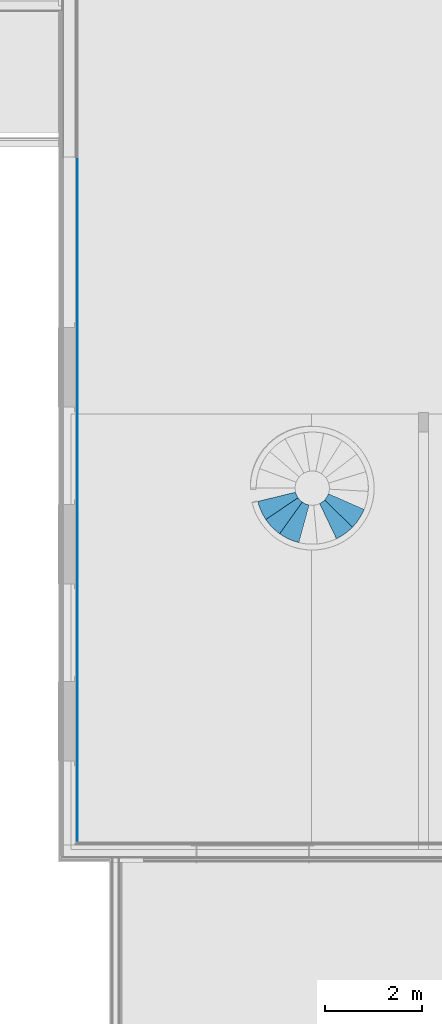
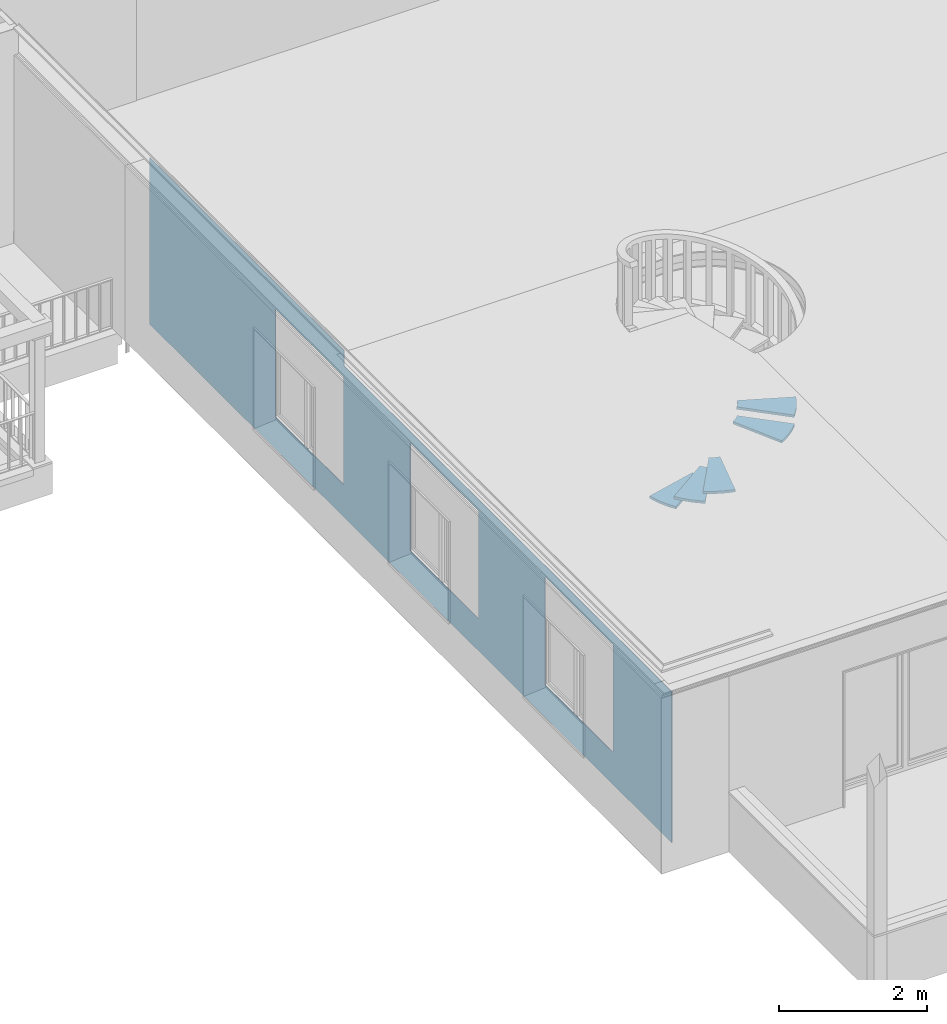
# One storey, part 4 of 36: 6 building element parts, 3 openings, 2 elements without a shape of their own.
"""IFC4 building model written with IfcOpenShell, lengths in millimetres."""

from ifc_helpers import new_model, entity, si_unit, converted_unit, derived_unit, direction, frame, origin_with_axes, place, context, subcontext, project, spatial, polygons, material, type_object, element, aggregate, save


model = new_model("IFC4")

# Units and contexts
model_context = context("Model", 3, precision=0.01, world=origin_with_axes(), true_north=direction((0.0, 1.0)))
body_context = subcontext(model_context, "Body", "Model", "MODEL_VIEW")
ifc_project = project(units=[si_unit("LENGTHUNIT", "METRE", prefix="MILLI"), si_unit("AREAUNIT", "SQUARE_METRE"), si_unit("VOLUMEUNIT", "CUBIC_METRE"), converted_unit("PLANEANGLEUNIT", "DEGREE", entity("IfcPlaneAngleMeasure", 0.0174532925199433), si_unit("PLANEANGLEUNIT", "RADIAN"), dimensions=[0, 0, 0, 0, 0, 0, 0]), converted_unit("TIMEUNIT", "Year", entity("IfcTimeMeasure", 31557600.0), si_unit("TIMEUNIT", "SECOND"), dimensions=[0, 0, 1, 0, 0, 0, 0]), si_unit("MASSUNIT", "GRAM", prefix="KILO"), si_unit("THERMODYNAMICTEMPERATUREUNIT", "DEGREE_CELSIUS"), si_unit("LUMINOUSINTENSITYUNIT", "LUMEN"), si_unit("ENERGYUNIT", "JOULE", prefix="MEGA"), derived_unit("THERMALCONDUCTANCEUNIT", [(si_unit("POWERUNIT", "WATT"), 1), (si_unit("LENGTHUNIT", "METRE"), -1), (si_unit("THERMODYNAMICTEMPERATUREUNIT", "KELVIN"), -1)]), derived_unit("SPECIFICHEATCAPACITYUNIT", [(si_unit("ENERGYUNIT", "JOULE"), 1), (si_unit("MASSUNIT", "GRAM", prefix="KILO"), -1), (si_unit("THERMODYNAMICTEMPERATUREUNIT", "KELVIN"), -1)]), derived_unit("MASSDENSITYUNIT", [(si_unit("MASSUNIT", "GRAM", prefix="KILO"), 1), (si_unit("VOLUMEUNIT", "CUBIC_METRE"), -1)])], contexts=[model_context])

# Site, building, storey
site_placement = place(None, origin_with_axes())
site = spatial("IfcSite", under=ifc_project, at=site_placement, Name="Gelände", CompositionType="ELEMENT")
building_placement = place(site_placement, origin_with_axes())
building = spatial("IfcBuilding", under=site, at=building_placement, Name="Gebäude", CompositionType="ELEMENT")
storey_placement = place(building_placement, frame((0.0, 0.0, 8700.0), z_axis=(0.0, 0.0, 1.0), x_axis=(1.0, 0.0, 0.0)))
storey = spatial("IfcBuildingStorey", under=building, at=storey_placement, Name="Attika", CompositionType="ELEMENT", Elevation=8700.0)

# Stair, building element parts
stair_type = type_object("IfcStairType", Name="Treppentyp", PredefinedType="NOTDEFINED")
stair_placement = place(storey_placement, frame((22020.85993748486, 15863.01699226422, 650.0000000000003), z_axis=(0.0, 0.0, 1.0), x_axis=(0.8601646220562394, -0.5100164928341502, 0.0)))
stair = element("IfcStair", 1, at=stair_placement, inside=storey, type_object=stair_type, Name="Treppe-001", PredefinedType="NOTDEFINED")
ifc_material_1 = material(Name="Vollholzwerkstoff")
building_element_part_1_placement = place(stair_placement, origin_with_axes())
building_element_part_1 = element("IfcBuildingElementPart", 2, at=building_element_part_1_placement, material=ifc_material_1, Name="Vollholzwerkstoff", PredefinedType="NOTDEFINED", context=body_context, shape_type="Tessellation", body=[
    polygons([(571.9144105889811, 559.3870815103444, 121.7646997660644), (0.0, 0.0, 121.7646997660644), (0.0, 0.0, 161.7646997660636), (571.9144105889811, 559.3870815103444, 161.7646997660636), (610.7940585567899, 525.0764473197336, 121.7646997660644), (654.2753023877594, 496.8235168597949, 121.7646997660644), (701.4223209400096, 475.2363612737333, 121.7646997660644), (359.6142282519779, -249.0456251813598, 121.7646997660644), (280.4951340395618, -210.5256784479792, 121.7646997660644), (204.5428513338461, -166.0861901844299, 121.7646997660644), (132.1994402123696, -115.9858086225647, 121.7646997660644), (63.88595627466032, -60.51612971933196, 121.7646997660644), (63.88595627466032, -60.51612971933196, 161.7646997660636), (132.1994402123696, -115.9858086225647, 161.7646997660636), (204.5428513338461, -166.0861901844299, 161.7646997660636), (280.4951340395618, -210.5256784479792, 161.7646997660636), (359.6142282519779, -249.0456251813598, 161.7646997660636), (701.4223209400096, 475.2363612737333, 161.7646997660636), (654.2753023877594, 496.8235168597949, 161.7646997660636), (610.7940585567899, 525.0764473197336, 161.7646997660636)], [[[1, 2, 3, 4]], [[1, 5, 6, 7, 8, 9, 10, 11, 12, 2]], [[2, 12, 13, 3]], [[4, 3, 13, 14, 15, 16, 17, 18, 19, 20]], [[5, 1, 4, 20]], [[6, 5, 20, 19]], [[7, 6, 19, 18]], [[8, 7, 18, 17]], [[9, 8, 17, 16]], [[10, 9, 16, 15]], [[11, 10, 15, 14]], [[12, 11, 14, 13]]], closed=True),
])
building_element_part_2_placement = place(stair_placement, origin_with_axes())
building_element_part_2 = element("IfcBuildingElementPart", 3, at=building_element_part_2_placement, material=ifc_material_1, Name="Vollholzwerkstoff", PredefinedType="NOTDEFINED", context=body_context, shape_type="Tessellation", body=[
    polygons([(673.7474264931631, 486.8865526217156, 283.5293995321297), (332.3171436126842, -236.5948651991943, 283.5293995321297), (332.3171436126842, -236.5948651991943, 323.5293995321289), (673.7474264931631, 486.8865526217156, 323.5293995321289), (722.1387784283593, 468.2552965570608, 283.5293995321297), (772.7353195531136, 456.9046723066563, 283.5293995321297), (824.4480903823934, 453.078972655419, 283.5293995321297), (756.131821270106, -344.8872268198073, 283.5293995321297), (668.5523360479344, -336.3168631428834, 283.5293995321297), (581.8810785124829, -321.0948237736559, 283.5293995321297), (496.6224956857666, -299.3097045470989, 283.5293995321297), (413.2728124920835, -271.088299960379, 283.5293995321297), (413.2728124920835, -271.088299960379, 323.5293995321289), (496.6224956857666, -299.3097045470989, 323.5293995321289), (581.8810785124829, -321.0948237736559, 323.5293995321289), (668.5523360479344, -336.3168631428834, 323.5293995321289), (756.131821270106, -344.8872268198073, 323.5293995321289), (824.4480903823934, 453.078972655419, 323.5293995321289), (772.7353195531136, 456.9046723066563, 323.5293995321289), (722.1387784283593, 468.2552965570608, 323.5293995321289)], [[[1, 2, 3, 4]], [[1, 5, 6, 7, 8, 9, 10, 11, 12, 2]], [[2, 12, 13, 3]], [[4, 3, 13, 14, 15, 16, 17, 18, 19, 20]], [[5, 1, 4, 20]], [[6, 5, 20, 19]], [[7, 6, 19, 18]], [[8, 7, 18, 17]], [[9, 8, 17, 16]], [[10, 9, 16, 15]], [[11, 10, 15, 14]], [[12, 11, 14, 13]]], closed=True),
])
building_element_part_3_placement = place(stair_placement, origin_with_axes())
building_element_part_3 = element("IfcBuildingElementPart", 4, at=building_element_part_3_placement, material=ifc_material_1, Name="Vollholzwerkstoff", PredefinedType="NOTDEFINED", context=body_context, shape_type="Tessellation", body=[
    polygons([(794.4486373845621, 454.3672121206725, 445.2940992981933), (726.2078801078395, -342.7169735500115, 445.2940992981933), (726.2078801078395, -342.7169735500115, 485.2940992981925), (794.4486373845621, 454.3672121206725, 485.2940992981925), (846.2990024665, 453.7456933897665, 445.2940992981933), (897.6823295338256, 460.7170880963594, 445.2940992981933), (947.4927255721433, 475.1313550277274, 445.2940992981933), (1161.213138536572, -296.7110856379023, 445.2940992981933), (1076.12752427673, -319.1622684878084, 445.2940992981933), (989.5779546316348, -335.0616194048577, 445.2940992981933), (902.0681683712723, -344.3166004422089, 445.2940992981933), (814.1074929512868, -346.873345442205, 445.2940992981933), (814.1074929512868, -346.873345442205, 485.2940992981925), (902.0681683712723, -344.3166004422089, 485.2940992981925), (989.5779546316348, -335.0616194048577, 485.2940992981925), (1076.12752427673, -319.1622684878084, 485.2940992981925), (1161.213138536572, -296.7110856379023, 485.2940992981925), (947.4927255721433, 475.1313550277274, 485.2940992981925), (897.6823295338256, 460.7170880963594, 485.2940992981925), (846.2990024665, 453.7456933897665, 485.2940992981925)], [[[1, 2, 3, 4]], [[1, 5, 6, 7, 8, 9, 10, 11, 12, 2]], [[2, 12, 13, 3]], [[4, 3, 13, 14, 15, 16, 17, 18, 19, 20]], [[5, 1, 4, 20]], [[6, 5, 20, 19]], [[7, 6, 19, 18]], [[8, 7, 18, 17]], [[9, 8, 17, 16]], [[10, 9, 16, 15]], [[11, 10, 15, 14]], [[12, 11, 14, 13]]], closed=True),
])
building_element_part_4_placement = place(stair_placement, origin_with_axes())
building_element_part_4 = element("IfcBuildingElementPart", 5, at=building_element_part_4_placement, material=ifc_material_1, Name="Vollholzwerkstoff", PredefinedType="NOTDEFINED", context=body_context, shape_type="Tessellation", body=[
    polygons([(1118.379723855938, 610.0036464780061, 930.5881985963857), (1783.309571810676, 165.1797517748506, 930.5881985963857), (1783.309571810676, 165.1797517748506, 970.5881985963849), (1118.379723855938, 610.0036464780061, 970.5881985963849), (1143.973038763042, 655.1016384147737, 930.5881985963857), (1162.692653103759, 703.4588786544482, 930.5881985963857), (1174.13567566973, 754.0346028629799, 930.5881985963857), (1953.181455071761, 568.2798136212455, 930.5881985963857), (1931.733646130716, 482.9357519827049, 930.5881985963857), (1903.842053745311, 399.4751239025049, 930.5881985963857), (1869.669013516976, 318.3836897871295, 930.5881985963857), (1829.413420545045, 240.1334207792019, 930.5881985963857), (1829.413420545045, 240.1334207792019, 970.5881985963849), (1869.669013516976, 318.3836897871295, 970.5881985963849), (1903.842053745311, 399.4751239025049, 970.5881985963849), (1931.733646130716, 482.9357519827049, 970.5881985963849), (1953.181455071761, 568.2798136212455, 970.5881985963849), (1174.13567566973, 754.0346028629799, 970.5881985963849), (1162.692653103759, 703.4588786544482, 970.5881985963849), (1143.973038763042, 655.1016384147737, 970.5881985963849)], [[[1, 2, 3, 4]], [[1, 5, 6, 7, 8, 9, 10, 11, 12, 2]], [[2, 12, 13, 3]], [[4, 3, 13, 14, 15, 16, 17, 18, 19, 20]], [[5, 1, 4, 20]], [[6, 5, 20, 19]], [[7, 6, 19, 18]], [[8, 7, 18, 17]], [[9, 8, 17, 16]], [[10, 9, 16, 15]], [[11, 10, 15, 14]], [[12, 11, 14, 13]]], closed=True),
])
building_element_part_5_placement = place(stair_placement, origin_with_axes())
building_element_part_5 = element("IfcBuildingElementPart", 6, at=building_element_part_5_placement, material=ifc_material_1, Name="Vollholzwerkstoff", PredefinedType="NOTDEFINED", context=body_context, shape_type="Tessellation", body=[
    polygons([(1168.418228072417, 724.556856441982, 1092.352898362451), (1946.602906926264, 539.0073870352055, 1092.352898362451), (1946.602906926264, 539.0073870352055, 1132.35289836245), (1168.418228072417, 724.556856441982, 1132.35289836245), (1176.712792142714, 775.7432496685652, 1092.352898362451), (1177.429017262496, 827.5923930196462, 1092.352898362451), (1170.551488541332, 878.9883679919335, 1092.352898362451), (1965.53597643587, 976.0287314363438, 1092.352898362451), (1975.136927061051, 888.556226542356, 1092.352898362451), (1978.041476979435, 800.6063490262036, 1092.352898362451), (1974.232721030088, 712.6909877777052, 1092.352898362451), (1963.732827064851, 625.3218307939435, 1092.352898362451), (1963.732827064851, 625.3218307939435, 1132.35289836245), (1974.232721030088, 712.6909877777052, 1132.35289836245), (1978.041476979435, 800.6063490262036, 1132.35289836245), (1975.136927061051, 888.556226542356, 1132.35289836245), (1965.53597643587, 976.0287314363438, 1132.35289836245), (1170.551488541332, 878.9883679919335, 1132.35289836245), (1177.429017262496, 827.5923930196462, 1132.35289836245), (1176.712792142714, 775.7432496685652, 1132.35289836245)], [[[1, 2, 3, 4]], [[1, 5, 6, 7, 8, 9, 10, 11, 12, 2]], [[2, 12, 13, 3]], [[4, 3, 13, 14, 15, 16, 17, 18, 19, 20]], [[5, 1, 4, 20]], [[6, 5, 20, 19]], [[7, 6, 19, 18]], [[8, 7, 18, 17]], [[9, 8, 17, 16]], [[10, 9, 16, 15]], [[11, 10, 15, 14]], [[12, 11, 14, 13]]], closed=True),
])
aggregate(stair, [building_element_part_1, building_element_part_2, building_element_part_3, building_element_part_4, building_element_part_5])

# Wall, openings, building element part
wall_type = type_object("IfcWallType", Name="Aussenwand Typ 01 318", PredefinedType="NOTDEFINED")
wall_placement = place(storey_placement, frame((17999.99744477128, 22947.48446271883, 500.0), z_axis=(0.0, 0.0, 1.0), x_axis=(0.0, -1.0, 0.0)))
wall = element("IfcWall", 7, at=wall_placement, inside=storey, type_object=wall_type, Name="Wand-014", PredefinedType="NOTDEFINED")
opening_1_placement = place(wall_placement, frame((11607.88718140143, 0.0, 740.0000000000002), z_axis=(0.0, 0.0, 1.0), x_axis=(1.0, 0.0, 0.0)))
element("IfcOpeningElement", 8, at=opening_1_placement, cuts=wall, Name="Fenster-004", context=body_context, identifier="Reference", shape_type="Tessellation", body=[
    polygons([(820.9999999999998, 249.9999999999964, 1621.0), (-820.9999999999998, 249.9999999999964, 1621.0), (-820.9999999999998, -1.000000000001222, 1621.0), (820.9999999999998, -1.000000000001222, 1621.0), (-800.0000000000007, 0.0, 1621.0), (-800.0000000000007, 149.9999999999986, 1621.0), (799.999999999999, 149.9999999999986, 1621.0), (799.999999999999, 0.0, 1621.0), (-820.9999999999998, 249.9999999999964, -60.0000000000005), (820.9999999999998, 249.9999999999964, -60.0000000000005), (920.9999999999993, 249.9999999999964, -60.0000000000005), (920.9999999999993, 249.9999999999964, 1721.0), (-920.9999999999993, 249.9999999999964, 1721.0), (-920.9999999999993, 249.9999999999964, -60.0000000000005), (-820.9999999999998, -1.000000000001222, -60.0000000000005), (820.9999999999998, -1.000000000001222, -60.0000000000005), (-800.0000000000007, 0.0, 1890.0), (-800.0000000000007, 149.9999999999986, 1890.0), (799.999999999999, 149.9999999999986, 1890.0), (799.999999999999, 0.0, 1890.0), (-920.9999999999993, 319.0000000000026, -60.0000000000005), (920.9999999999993, 319.0000000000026, -60.0000000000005), (920.9999999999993, 319.0000000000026, 1721.0), (-920.9999999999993, 319.0000000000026, 1721.0)], [[[1, 2, 3, 4], [5, 6, 7, 8]], [[9, 2, 1, 10, 11, 12, 13, 14]], [[2, 9, 15, 3]], [[3, 15, 16, 4]], [[10, 1, 4, 16]], [[6, 5, 17, 18]], [[7, 6, 18, 19]], [[8, 7, 19, 20]], [[5, 8, 20, 17]], [[10, 9, 14, 21, 22, 11]], [[12, 11, 22, 23]], [[13, 12, 23, 24]], [[14, 13, 24, 21]], [[9, 10, 16, 15]], [[20, 19, 18, 17]], [[23, 22, 21, 24]]], closed=True),
])
opening_2_placement = place(wall_placement, frame((7965.887181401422, 0.0, 740.0000000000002), z_axis=(0.0, 0.0, 1.0), x_axis=(1.0, 0.0, 0.0)))
element("IfcOpeningElement", 9, at=opening_2_placement, cuts=wall, context=body_context, identifier="Reference", shape_type="Tessellation", body=[
    polygons([(820.9999999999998, 250.0, 1621.0), (-820.9999999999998, 250.0, 1621.0), (-820.9999999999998, -1.000000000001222, 1621.0), (820.9999999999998, -1.000000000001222, 1621.0), (-800.0000000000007, 0.0, 1621.0), (-800.0000000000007, 150.0000000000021, 1621.0), (799.999999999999, 150.0000000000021, 1621.0), (799.999999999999, 0.0, 1621.0), (-820.9999999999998, 250.0, -60.0000000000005), (820.9999999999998, 250.0, -60.0000000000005), (920.9999999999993, 250.0, -60.0000000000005), (920.9999999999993, 250.0, 1721.0), (-920.9999999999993, 250.0, 1721.0), (-920.9999999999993, 250.0, -60.0000000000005), (-820.9999999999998, -1.000000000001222, -60.0000000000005), (820.9999999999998, -1.000000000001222, -60.0000000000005), (-800.0000000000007, 0.0, 1890.0), (-800.0000000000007, 150.0000000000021, 1890.0), (799.999999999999, 150.0000000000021, 1890.0), (799.999999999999, 0.0, 1890.0), (-920.9999999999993, 319.0000000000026, -60.0000000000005), (920.9999999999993, 319.0000000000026, -60.0000000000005), (920.9999999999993, 319.0000000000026, 1721.0), (-920.9999999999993, 319.0000000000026, 1721.0)], [[[1, 2, 3, 4], [5, 6, 7, 8]], [[9, 2, 1, 10, 11, 12, 13, 14]], [[2, 9, 15, 3]], [[3, 15, 16, 4]], [[10, 1, 4, 16]], [[6, 5, 17, 18]], [[7, 6, 18, 19]], [[8, 7, 19, 20]], [[5, 8, 20, 17]], [[10, 9, 14, 21, 22, 11]], [[12, 11, 22, 23]], [[13, 12, 23, 24]], [[14, 13, 24, 21]], [[9, 10, 16, 15]], [[20, 19, 18, 17]], [[23, 22, 21, 24]]], closed=True),
])
opening_3_placement = place(wall_placement, frame((4323.887181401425, 0.0, 740.0000000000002), z_axis=(0.0, 0.0, 1.0), x_axis=(1.0, 0.0, 0.0)))
element("IfcOpeningElement", 10, at=opening_3_placement, cuts=wall, Name="Fenster-004", context=body_context, identifier="Reference", shape_type="Tessellation", body=[
    polygons([(821.0000000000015, 250.0, 1621.0), (-821.0000000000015, 250.0, 1621.0), (-821.0000000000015, -1.000000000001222, 1621.0), (821.0000000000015, -1.000000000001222, 1621.0), (-800.0000000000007, 0.0, 1621.0), (-800.0000000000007, 150.0000000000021, 1621.0), (800.0000000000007, 150.0000000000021, 1621.0), (800.0000000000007, 0.0, 1621.0), (-821.0000000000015, 250.0, -60.0000000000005), (821.0000000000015, 250.0, -60.0000000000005), (920.9999999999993, 250.0, -60.0000000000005), (920.9999999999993, 250.0, 1721.0), (-920.9999999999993, 250.0, 1721.0), (-920.9999999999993, 250.0, -60.0000000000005), (-821.0000000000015, -1.000000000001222, -60.0000000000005), (821.0000000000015, -1.000000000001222, -60.0000000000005), (-800.0000000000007, 0.0, 1890.0), (-800.0000000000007, 150.0000000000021, 1890.0), (800.0000000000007, 150.0000000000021, 1890.0), (800.0000000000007, 0.0, 1890.0), (-920.9999999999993, 319.0000000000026, -60.0000000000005), (920.9999999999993, 319.0000000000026, -60.0000000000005), (920.9999999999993, 319.0000000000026, 1721.0), (-920.9999999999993, 319.0000000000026, 1721.0)], [[[1, 2, 3, 4], [5, 6, 7, 8]], [[9, 2, 1, 10, 11, 12, 13, 14]], [[2, 9, 15, 3]], [[3, 15, 16, 4]], [[10, 1, 4, 16]], [[6, 5, 17, 18]], [[7, 6, 18, 19]], [[8, 7, 19, 20]], [[5, 8, 20, 17]], [[10, 9, 14, 21, 22, 11]], [[12, 11, 22, 23]], [[13, 12, 23, 24]], [[14, 13, 24, 21]], [[9, 10, 16, 15]], [[20, 19, 18, 17]], [[23, 22, 21, 24]]], closed=True),
])
ifc_material_2 = material(Name="Verputz Innen")
building_element_part_6_placement = place(wall_placement, origin_with_axes())
building_element_part_6 = element("IfcBuildingElementPart", 11, at=building_element_part_6_placement, material=ifc_material_2, Name="Verputz Innen", PredefinedType="NOTDEFINED", context=body_context, shape_type="Tessellation", body=[
    polygons([(14110.88718140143, 307.9999999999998, 2643.999896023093), (5284.814350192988, 308.0000000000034, 2643.999896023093), (5257.814350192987, 308.0000000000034, 2643.999896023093), (5257.814350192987, 308.0000000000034, 2899.999896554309), (0.0, 307.9999999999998, 2900.0), (0.0, 307.9999999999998, 150.0000000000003), (14110.88718140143, 307.9999999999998, 150.0000000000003), (10686.88718140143, 308.0000000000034, 2461.0), (12528.88718140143, 308.0000000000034, 2461.0), (12528.88718140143, 308.0000000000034, 679.9999999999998), (10686.88718140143, 308.0000000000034, 679.9999999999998), (7044.887181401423, 307.9999999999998, 679.9999999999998), (7044.887181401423, 307.9999999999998, 2461.0), (8886.887181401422, 307.9999999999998, 2461.0), (8886.887181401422, 307.9999999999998, 679.9999999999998), (5244.887181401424, 308.0000000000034, 679.9999999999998), (3402.887181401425, 308.0000000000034, 679.9999999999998), (3402.887181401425, 308.0000000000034, 2461.0), (5244.887181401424, 308.0000000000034, 2461.0), (14110.88718140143, 317.9999999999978, 2643.999896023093), (5257.814350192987, 317.9999999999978, 2643.999896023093), (5257.814350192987, 318.0000000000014, 2899.999896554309), (0.0, 318.0000000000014, 2900.0), (0.0, 318.0000000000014, 150.0000000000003), (14110.88718140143, 317.9999999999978, 150.0000000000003), (10686.88718140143, 317.9999999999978, 2461.0), (12528.88718140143, 317.9999999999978, 2461.0), (12528.88718140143, 317.9999999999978, 679.9999999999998), (10686.88718140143, 317.9999999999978, 679.9999999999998), (7044.887181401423, 318.0000000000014, 2461.0), (7044.887181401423, 318.0000000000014, 679.9999999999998), (8886.887181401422, 318.0000000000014, 2461.0), (8886.887181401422, 318.0000000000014, 679.9999999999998), (5244.887181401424, 317.9999999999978, 679.9999999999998), (3402.887181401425, 317.9999999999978, 679.9999999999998), (3402.887181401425, 317.9999999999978, 2461.0), (5244.887181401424, 317.9999999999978, 2461.0)], [[[1, 2, 3, 4, 5, 6, 7], [8, 9, 10, 11], [12, 13, 14, 15], [16, 17, 18, 19]], [[3, 2, 1, 20, 21]], [[3, 21, 22, 4]], [[5, 4, 22, 23]], [[5, 23, 24, 6]], [[25, 7, 6, 24]], [[7, 25, 20, 1]], [[9, 8, 26, 27]], [[10, 9, 27, 28]], [[11, 10, 28, 29]], [[8, 11, 29, 26]], [[30, 13, 12, 31]], [[32, 14, 13, 30]], [[33, 15, 14, 32]], [[31, 12, 15, 33]], [[34, 35, 17, 16]], [[35, 36, 18, 17]], [[36, 37, 19, 18]], [[37, 34, 16, 19]], [[24, 23, 22, 21, 20, 25], [26, 29, 28, 27], [32, 30, 31, 33], [34, 37, 36, 35]]], closed=True),
])
aggregate(wall, [building_element_part_6])

save(model, "model.ifc")
